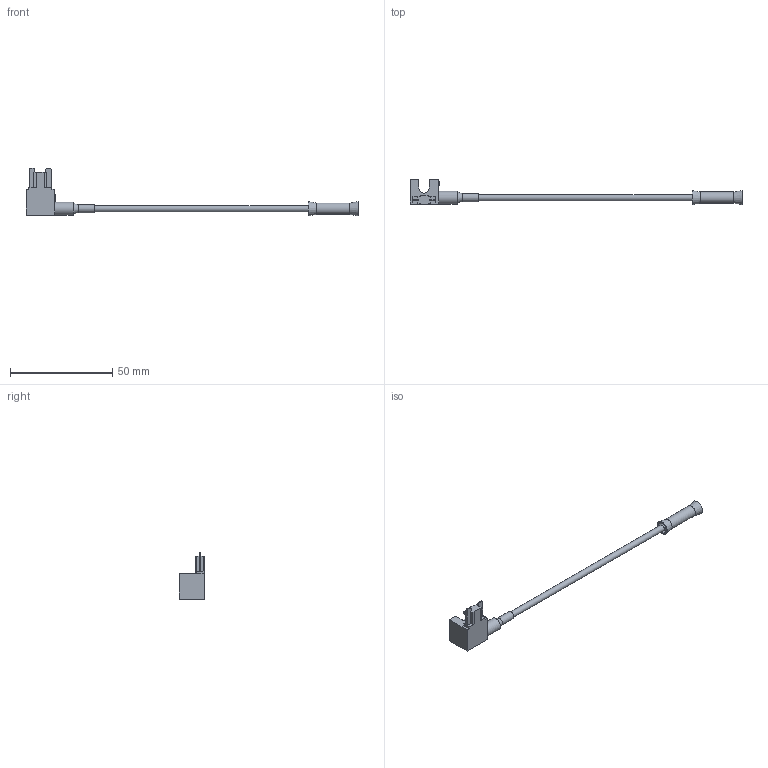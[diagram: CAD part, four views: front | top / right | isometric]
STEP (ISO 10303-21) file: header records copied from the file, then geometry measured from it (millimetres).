
FILE_DESCRIPTION(/* description */ (''),/* implementation_level */ '2;1');
FILE_NAME(/* name */ 'C:\Users\Hani\Desktop\work\LPS-08\LPS-08.stp',/* time_stamp */ '2021-07-24T14:29:19-07:00',/* author */ ('Hani'),/* organization */ (''),/* preprocessor_version */ 'ST-DEVELOPER v17',/* originating_system */ 'Autodesk Inventor 2019',/* authorisation */ '');
FILE_SCHEMA (('AUTOMOTIVE_DESIGN { 1 0 10303 214 3 1 1 }'));
Length unit declared in the file: inch
Products named in the file (1): LPT-08
Bounding box: 162.56 x 12.53 x 23.45 mm (x, y, z)
Volume: 3062.9 mm3; surface area: 3827.1 mm2
Topology: 1 solids, 1 shells, 231 faces, 633 edges, 420 vertices
Faces by surface type: plane 150, bspline 67, cylinder 8, cone 5, torus 1
Full cylindrical faces by diameter (mm): 3.048 x2, 4.064 x1, 5.588 x1, 6.35 x1
Entity records: 7746 total; most frequent: CARTESIAN_POINT 2156, ORIENTED_EDGE 1266, DIRECTION 856, EDGE_CURVE 633, LINE 472, VECTOR 472, VERTEX_POINT 420, EDGE_LOOP 247
